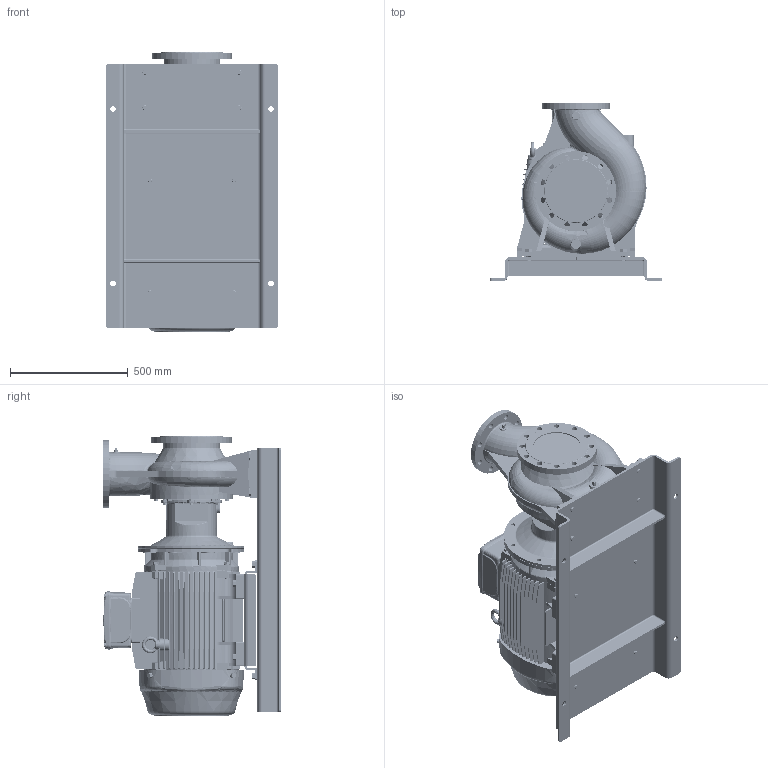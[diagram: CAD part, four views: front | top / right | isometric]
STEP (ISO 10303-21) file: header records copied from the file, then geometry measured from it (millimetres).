
FILE_DESCRIPTION (( 'STEP AP214' ), '1' );
FILE_NAME ('GSD4 150-250_37 & 45_(225SM)_W21_BP.STEP', '2026-05-08T01:00:51', ( '' ), ( '' ), 'SwSTEP 2.0', 'SolidWorks 2024', '' );
FILE_SCHEMA (( 'AUTOMOTIVE_DESIGN' ));
Length unit declared in the file: millimetre
Products named in the file (13): 225S_M4P IE3_W21T_B35; Parametric bolt and washer_SFT-A359B; Parametric bolt_SFT-A359B; Parametric bolt_SFT-A403B; Parametric Flat Washer_M20; CGS11-5282; Parametric Flat Washer_M16; Parametric bolt and washer_SFT-A403B; N9S4 GSDA-941 F1-1832973-00; Parametric bolt_SFT-A351B; 150-250-225S_M_ﾃﾞﾌｫﾙﾄ; Parametric bolt and washer_SFT-A351B; GSD4 150-250_37 & 45_(225SM)_W21_BP
Assembly tree (22 placements, depth 3):
  GSD4 150-250_37 & 45_(225SM)_W21_BP
    150-250-225S_M_ﾃﾞﾌｫﾙﾄ
    225S_M4P IE3_W21T_B35
    N9S4 GSDA-941 F1-1832973-00
    CGS11-5282
    Parametric bolt and washer_SFT-A403B  x4
      Parametric bolt_SFT-A403B
      Parametric Flat Washer_M20
    Parametric bolt and washer_SFT-A351B  x4
      Parametric bolt_SFT-A351B
      Parametric Flat Washer_M16
    Parametric bolt and washer_SFT-A359B  x4
      Parametric bolt_SFT-A359B
      Parametric Flat Washer_M16
Bounding box: 730 x 755 x 1184.5 mm (x, y, z)
Volume: 163194092.4 mm3; surface area: 7557915.1 mm2
Topology: 41 solids, 46 shells, 4367 faces, 11490 edges, 7344 vertices
Faces by surface type: plane 1775, cylinder 1547, cone 461, bspline 294, torus 272, sphere 18
Entity records: 181657 total; most frequent: CARTESIAN_POINT 91438, ORIENTED_EDGE 19656, DIRECTION 17963, EDGE_CURVE 9828, AXIS2_PLACEMENT_3D 6543, VERTEX_POINT 6273, LINE 4877, VECTOR 4877
